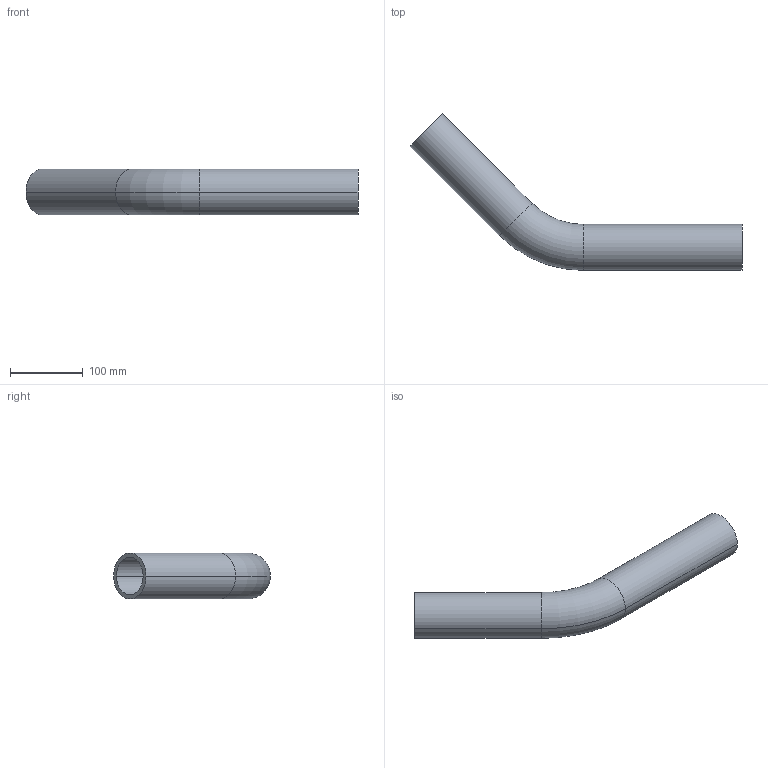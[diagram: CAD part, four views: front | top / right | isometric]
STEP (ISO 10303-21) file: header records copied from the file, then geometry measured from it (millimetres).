
FILE_DESCRIPTION (( 'STEP AP203' ), '1' );
FILE_NAME ('KP_4-63F.step', '2011-08-08T11:40:33', ( '' ), ( '' ), 'SwSTEP 2.0', 'SolidWorks 2011', '' );
FILE_SCHEMA (( 'CONFIG_CONTROL_DESIGN' ));
Length unit declared in the file: millimetre
Products named in the file (1): KP_4-63F
Bounding box: 455 x 215 x 63 mm (x, y, z)
Volume: 514717.4 mm3; surface area: 179573.3 mm2
Topology: 1 solids, 1 shells, 14 faces, 28 edges, 16 vertices
Faces by surface type: cylinder 8, torus 4, plane 2
Entity records: 449 total; most frequent: DIRECTION 78, CARTESIAN_POINT 59, ORIENTED_EDGE 56, AXIS2_PLACEMENT_3D 35, EDGE_CURVE 28, CIRCLE 20, VERTEX_POINT 16, EDGE_LOOP 16
